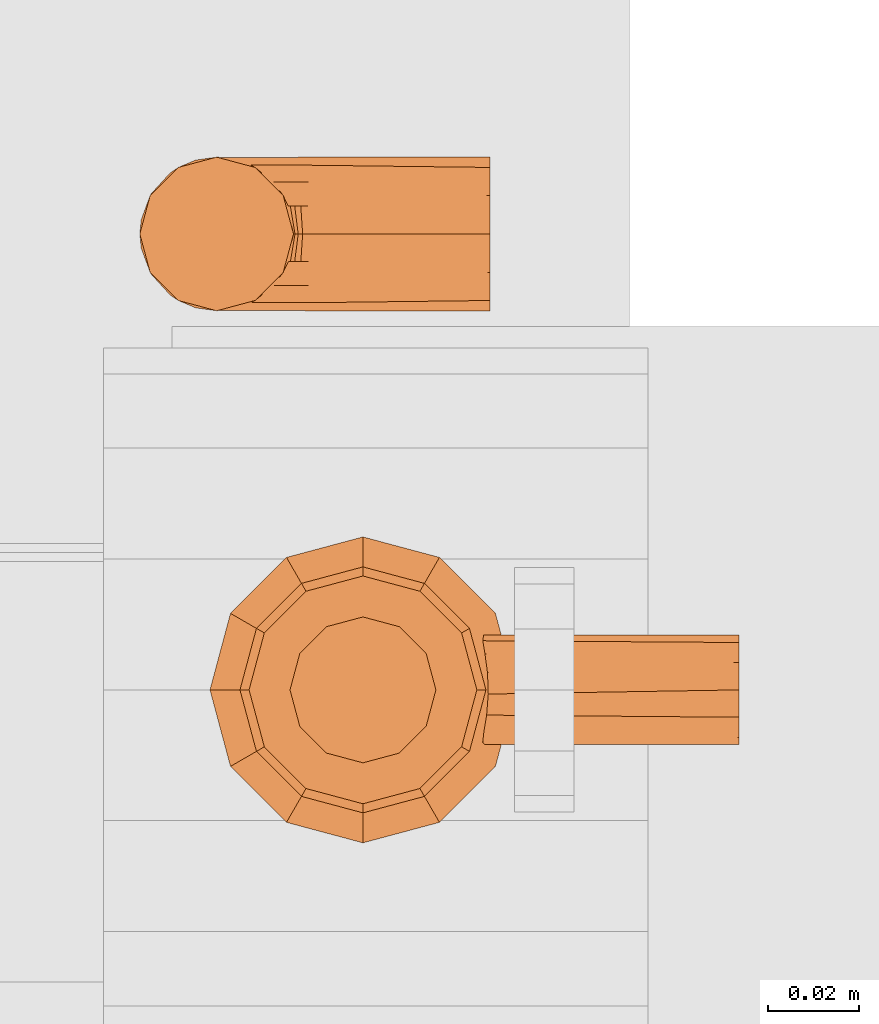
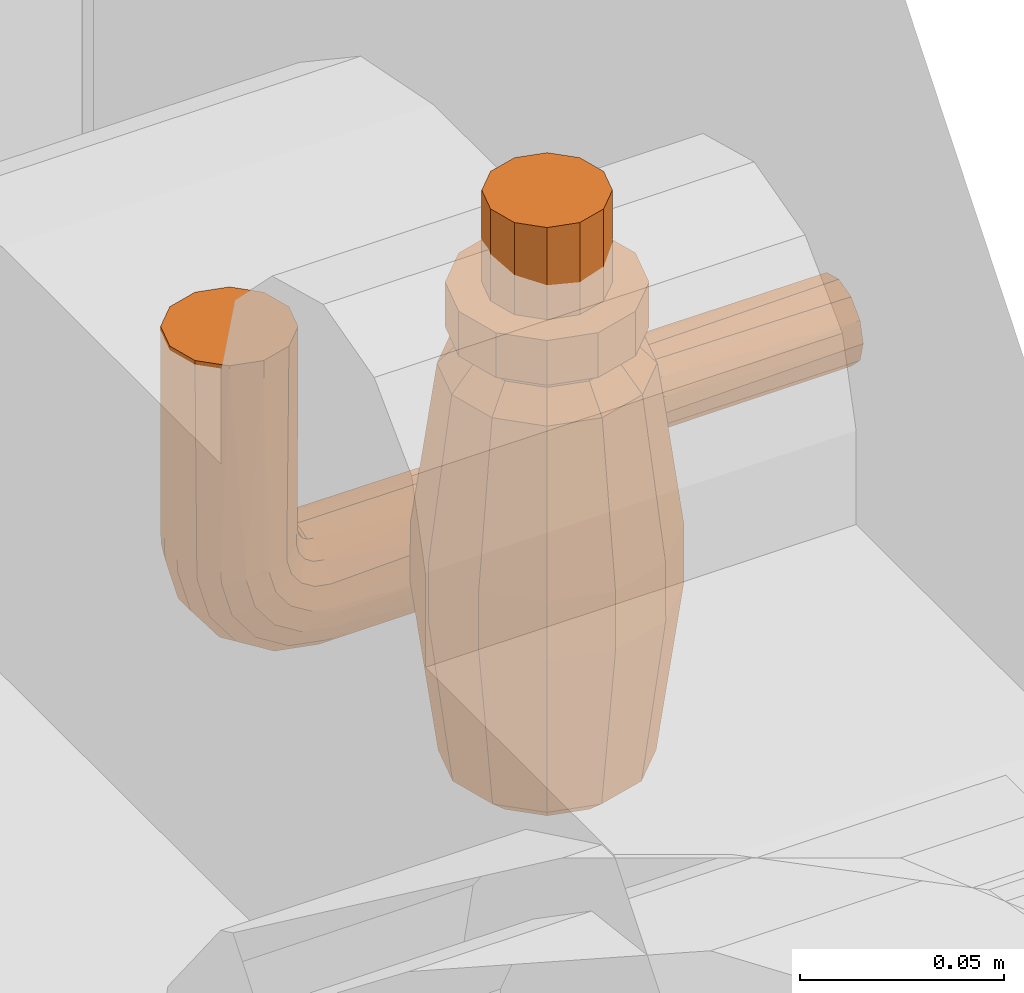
# One storey, part 373 of 374: 2 proxies.
"""IFC2X3 building model written with IfcOpenShell, lengths in metres."""

import ifcopenshell
import ifcopenshell.guid

model = None  # the IFC model being written
_history = None  # IfcOwnerHistory: only IFC2X3 demands one
_inside = {}  # id of a spatial element -> (the spatial element, [elements in it])
_under = {}  # id of a project, library or spatial element -> (it, [spatial elements below it])
_declared = {}  # id of a project -> (the project, [libraries it declares])
_typed = {}  # id of a type object -> (the type object, [elements of that type])
_made_of = {}  # id of a material, layer set ... -> (it, [elements and type objects made of it])


def new_model(schema):
    """Start an empty IFC model of exactly this schema.

    Asked for "IFC4X3", IfcOpenShell would pick the latest addendum, in which some entities
    have other attributes; the version numbers below select the first issue.
    IFC2X3 requires an IfcOwnerHistory on every rooted entity: one is made here for all.
    """
    global model, _history
    if schema == "IFC4X3":
        model = ifcopenshell.file(schema_version=(4, 3, 0, 0))
    else:
        model = ifcopenshell.file(schema=schema)
    _inside.clear()
    _under.clear()
    _declared.clear()
    _typed.clear()
    _made_of.clear()
    _history = None
    if model.schema == "IFC2X3":
        org = make("IfcOrganization", Name="unknown")
        user = make(
            "IfcPersonAndOrganization",
            ThePerson=make("IfcPerson", FamilyName="unknown"),
            TheOrganization=org,
        )
        app = make(
            "IfcApplication",
            ApplicationDeveloper=org,
            Version="unknown",
            ApplicationFullName="unknown",
            ApplicationIdentifier="unknown",
        )
        _history = make(
            "IfcOwnerHistory",
            OwningUser=user,
            OwningApplication=app,
            ChangeAction="ADDED",
            CreationDate=0,
        )
    return model


def make(cls, **values):
    """One entity of the class cls with the attributes given. An attribute that is None is left unset."""
    return model.create_entity(
        cls, **{name: value for name, value in values.items() if value is not None}
    )


def rooted(cls, **values):
    """An entity with a GlobalId (a new one), such as an element, a storey or a relation."""
    return make(cls, GlobalId=ifcopenshell.guid.new(), OwnerHistory=_history, **values)


def si_unit(unit_type, name, prefix=None):
    """IfcSIUnit, for example si_unit("LENGTHUNIT", "METRE", prefix="MILLI")."""
    return make("IfcSIUnit", UnitType=unit_type, Prefix=prefix, Name=name)


def assignment(units):
    """IfcUnitAssignment: the units of a project."""
    return None if units is None else make("IfcUnitAssignment", Units=units)


def point(xyz):
    """IfcCartesianPoint."""
    return None if xyz is None else make("IfcCartesianPoint", Coordinates=xyz)


def direction(xyz):
    """IfcDirection."""
    return None if xyz is None else make("IfcDirection", DirectionRatios=xyz)


def frame(location, z_axis=None, x_axis=None):
    """IfcAxis2Placement3D, a coordinate frame: its origin and axes. An axis left out is left unset."""
    return make(
        "IfcAxis2Placement3D",
        Location=point(location),
        Axis=direction(z_axis),
        RefDirection=direction(x_axis),
    )


def origin():
    """The frame at (0, 0, 0) with its axes left unset."""
    return frame((0.0, 0.0, 0.0))


def place(relative_to, where):
    """IfcLocalPlacement: puts the frame where relative to a parent placement (None: the world)."""
    return make(
        "IfcLocalPlacement", PlacementRelTo=relative_to, RelativePlacement=where
    )


def context(
    kind, dimensions, precision=None, world=None, true_north=None, identifier=None
):
    """IfcGeometricRepresentationContext, for example the 3D "Model" context."""
    return make(
        "IfcGeometricRepresentationContext",
        ContextIdentifier=identifier,
        ContextType=kind,
        CoordinateSpaceDimension=dimensions,
        Precision=precision,
        WorldCoordinateSystem=world,
        TrueNorth=true_north,
    )


def subcontext(parent, identifier, kind, view, scale=None):
    """IfcGeometricRepresentationSubContext, for example "Body" below "Model"."""
    return make(
        "IfcGeometricRepresentationSubContext",
        ContextIdentifier=identifier,
        ContextType=kind,
        ParentContext=parent,
        TargetScale=scale,
        TargetView=view,
    )


def project(units=None, contexts=None):
    """IfcProject with its units and contexts."""
    return rooted(
        "IfcProject",
        Name="project",
        RepresentationContexts=contexts,
        UnitsInContext=assignment(units),
    )


def spatial(cls, under=None, at=None, **own):
    """A site, building, storey or space (cls), placed at a placement, below another one or the project."""
    s = rooted(cls, ObjectPlacement=at, **own)
    if under is not None:
        _under.setdefault(under.id(), (under, []))[1].append(s)
    return s


def faces_of(points, faces, orient=None, outer=None):
    """IfcFace entities. A face is a list of loops; a loop is a list of indices into points, from 0.

    orient and outer hold one flag for each loop. By default every Orientation is true, the
    first loop of a face is its IfcFaceOuterBound and the others are IfcFaceBound.
    """
    made = []
    for i, loops in enumerate(faces):
        bounds = []
        for j, loop in enumerate(loops):
            is_outer = j == 0 if outer is None else outer[i][j]
            bounds.append(
                make(
                    "IfcFaceOuterBound" if is_outer else "IfcFaceBound",
                    Bound=make("IfcPolyLoop", Polygon=[points[k] for k in loop]),
                    Orientation=True if orient is None else orient[i][j],
                )
            )
        made.append(make("IfcFace", Bounds=bounds))
    return made


def open_shell(faces, orient=None, outer=None):
    """The faces of one IfcOpenShell. surface_model builds it on its shared points."""
    return ("IfcOpenShell", faces, orient, outer)


def surface_model(cls, points, shells):
    """IfcFaceBasedSurfaceModel or IfcShellBasedSurfaceModel (cls): surfaces that need not close."""
    shared = [point(p) for p in points]
    made = [make(c, CfsFaces=faces_of(shared, fs, o, b)) for c, fs, o, b in shells]
    if cls == "IfcFaceBasedSurfaceModel":
        return make(cls, FbsmFaces=made)
    return make(cls, SbsmBoundary=made)


def shape(context_of_items, identifier, shape_type, items):
    """IfcShapeRepresentation: the items that make up one representation, for example the "Body"."""
    return make(
        "IfcShapeRepresentation",
        ContextOfItems=context_of_items,
        RepresentationIdentifier=identifier,
        RepresentationType=shape_type,
        Items=items,
    )


def source(mapping_origin, context_of_items, identifier, shape_type, items):
    """IfcRepresentationMap: a shape defined once, which mapped items show again and again."""
    return make(
        "IfcRepresentationMap",
        MappingOrigin=mapping_origin,
        MappedRepresentation=shape(context_of_items, identifier, shape_type, items),
    )


def transform(
    local_origin,
    x_axis=None,
    y_axis=None,
    z_axis=None,
    scale=None,
    scale2=None,
    scale3=None,
    uniform=True,
):
    """IfcCartesianTransformationOperator3D, or its non-uniform kind. x_axis, y_axis, z_axis: its Axis1, 2, 3."""
    if uniform:
        return make(
            "IfcCartesianTransformationOperator3D",
            Axis1=direction(x_axis),
            Axis2=direction(y_axis),
            LocalOrigin=point(local_origin),
            Scale=scale,
            Axis3=direction(z_axis),
        )
    return make(
        "IfcCartesianTransformationOperator3DnonUniform",
        Axis1=direction(x_axis),
        Axis2=direction(y_axis),
        LocalOrigin=point(local_origin),
        Scale=scale,
        Axis3=direction(z_axis),
        Scale2=scale2,
        Scale3=scale3,
    )


def mapped(mapping_source, mapping_target):
    """IfcMappedItem: shows the shape of a source again, moved by a transform."""
    return make(
        "IfcMappedItem", MappingSource=mapping_source, MappingTarget=mapping_target
    )


def made_of(thing, what):
    """Note that an element or type object is made of a material, layer set ...; save() writes the relation."""
    if what is not None:
        _made_of.setdefault(what.id(), (what, []))[1].append(thing)
    return thing


def element(
    cls,
    number,
    at=None,
    inside=None,
    cuts=None,
    type_object=None,
    material=None,
    context=None,
    identifier="Body",
    shape_type=None,
    held_by="IfcProductDefinitionShape",
    body=None,
    shapes=None,
    **own,
):
    """One element of the class cls, such as IfcWall. Its Tag is "e" and its number.

    at: its placement. inside: the storey or other place that contains it. cuts: it is an
    opening in that element (IfcRelVoidsElement). A single representation is given by context,
    identifier, shape_type and body (its items); several are given by shapes. held_by: the class
    of the entity that holds the representations. save() writes the other relations.
    """
    e = rooted(cls, Tag="e%d" % number, ObjectPlacement=at, **own)
    if body is not None:
        shapes = [shape(context, identifier, shape_type, body)]
    if shapes is not None:
        e.Representation = make(held_by, Representations=shapes)
    if inside is not None:
        _inside.setdefault(inside.id(), (inside, []))[1].append(e)
    if cuts is not None:
        rooted(
            "IfcRelVoidsElement", RelatingBuildingElement=cuts, RelatedOpeningElement=e
        )
    if type_object is not None:
        _typed.setdefault(type_object.id(), (type_object, []))[1].append(e)
    return made_of(e, material)


def aggregate(whole, parts):
    """IfcRelAggregates: a whole, such as a stair, and the parts it consists of."""
    return rooted("IfcRelAggregates", RelatingObject=whole, RelatedObjects=parts)


def save(model, path):
    """Write the relations noted so far, then the file.

    IfcRelAggregates (storeys below a building ...), IfcRelContainedInSpatialStructure (elements
    in a storey), IfcRelDefinesByType, IfcRelAssociatesMaterial and IfcRelDeclares: one each for
    every whole, place, type object, material and project.
    """
    for whole, parts in _under.values():
        aggregate(whole, parts)
    for where, things in _inside.values():
        rooted(
            "IfcRelContainedInSpatialStructure",
            RelatedElements=things,
            RelatingStructure=where,
        )
    for kind, things in _typed.values():
        rooted("IfcRelDefinesByType", RelatedObjects=things, RelatingType=kind)
    for what, things in _made_of.values():
        rooted("IfcRelAssociatesMaterial", RelatedObjects=things, RelatingMaterial=what)
    for by, libraries in _declared.values():
        rooted("IfcRelDeclares", RelatingContext=by, RelatedDefinitions=libraries)
    model.write(path)


model = new_model("IFC2X3")

# Units and contexts
model_context = context("Model", 3, precision=1e-05, world=origin(), true_north=direction((-0.4480736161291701, 0.8939966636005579)))
body_context = subcontext(model_context, "Body", "Model", "MODEL_VIEW")
ifc_project = project(units=[si_unit("LENGTHUNIT", "METRE"), si_unit("AREAUNIT", "SQUARE_METRE"), si_unit("VOLUMEUNIT", "CUBIC_METRE"), si_unit("PLANEANGLEUNIT", "RADIAN"), si_unit("THERMODYNAMICTEMPERATUREUNIT", "KELVIN"), si_unit("MASSUNIT", "GRAM", prefix="KILO"), si_unit("TIMEUNIT", "SECOND")], contexts=[model_context])

# Site, building, storey
site_placement = place(None, origin())
site = spatial("IfcSite", under=ifc_project, at=site_placement, Name="Site 1", CompositionType="ELEMENT")
building_placement = place(site_placement, origin())
building = spatial("IfcBuilding", under=site, at=building_placement, Name="Undefined", CompositionType="ELEMENT")
storey_placement = place(building_placement, origin())
storey = spatial("IfcBuildingStorey", under=building, at=storey_placement, Name="Rez de chauss\x8ee", CompositionType="ELEMENT", Elevation=0.0)

# Proxies
shared_shape_1 = source(origin(), body_context, "Body", "SurfaceModel", [
    surface_model("IfcFaceBasedSurfaceModel", [(0.01627517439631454, 0.004360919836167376, 0.0), (0.0, 0.0, 0.0), (0.023828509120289, 4.4408921e-16, 0.0), (-0.004360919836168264, -0.007553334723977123, 0.0), (0.028189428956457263, -0.007553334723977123, 0.0), (-0.004360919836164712, -0.01627517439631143, 0.0), (0.028189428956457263, -0.016275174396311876, 0.0), (0.0, -0.023828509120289, 0.0), (0.023828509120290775, -0.023828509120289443, 0.0), (0.007553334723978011, -0.02818942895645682, 0.0), (0.016275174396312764, -0.02818942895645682, 0.0), (0.007553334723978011, 0.004360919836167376, 0.0), (-0.00493304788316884, -0.011654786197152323, -0.039897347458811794), (-0.004360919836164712, -0.01627517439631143, -0.039897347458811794), (-0.0038891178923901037, -0.0177582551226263, -0.039897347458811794), (-0.0007108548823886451, -0.02307245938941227, -0.039897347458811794), (0.004172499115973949, -0.02687968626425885, -0.039897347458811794), (0.010101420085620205, -0.028665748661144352, -0.039897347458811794), (0.016275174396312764, -0.02818942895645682, -0.039897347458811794), (0.021859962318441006, -0.025515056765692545, -0.039897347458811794), (0.0261015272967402, -0.021003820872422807, -0.039897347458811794), (0.028427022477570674, -0.015264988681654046, -0.039897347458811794), (0.02852237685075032, -0.009073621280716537, -0.039897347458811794), (0.028189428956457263, -0.007553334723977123, -0.039897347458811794), (0.026374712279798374, -0.00326589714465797, -0.039897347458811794), (0.022274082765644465, 0.001373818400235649, -0.039897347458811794), (0.01677430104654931, 0.004218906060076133, -0.039897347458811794), (0.010618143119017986, 0.0048851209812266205, -0.039897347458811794), (0.004637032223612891, 0.0032824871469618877, -0.039897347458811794), (-0.0003612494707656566, -0.00037255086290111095, -0.039897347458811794), (-0.0037016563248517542, -0.005586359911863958, -0.039897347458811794), (0.041370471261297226, -0.08929600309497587, -0.0453054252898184), (0.025095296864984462, -0.09365692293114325, -0.0453054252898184), (0.04732759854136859, -0.08769979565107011, -0.05147269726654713), (0.019138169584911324, -0.09525313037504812, -0.05147269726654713), (0.04950805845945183, -0.08711554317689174, -0.05989734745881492), (0.016957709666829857, -0.0958373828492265, -0.05989734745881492), (0.04732759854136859, -0.08769979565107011, -0.0683219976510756), (0.019138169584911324, -0.09525313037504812, -0.0683219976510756), (0.041370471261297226, -0.08929600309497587, -0.07448926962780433), (0.025095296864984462, -0.09365692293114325, -0.07448926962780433), (0.033232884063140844, -0.09147646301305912, -0.07674664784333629), (0.033232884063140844, -0.09147646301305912, -0.043048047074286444), (0.0008848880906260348, -0.035575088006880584, -0.05834269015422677), (0.000815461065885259, -0.03559369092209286, -0.05989734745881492), (0.0014367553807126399, -0.03542721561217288, -0.06450837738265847), (0.004102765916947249, -0.03471286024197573, -0.0700513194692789), (0.008522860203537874, -0.03352849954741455, -0.07422291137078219), (0.014100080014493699, -0.03203408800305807, -0.07645975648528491), (0.020081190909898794, -0.030431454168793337, -0.07645975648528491), (0.025658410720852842, -0.028937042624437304, -0.07422291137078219), (0.030078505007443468, -0.027752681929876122, -0.0700513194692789), (0.03274451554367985, -0.027038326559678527, -0.06450837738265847), (0.033365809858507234, -0.02687185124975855, -0.05989734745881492), (0.03329638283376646, -0.026890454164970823, -0.05834269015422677), (0.03165957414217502, -0.02732903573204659, -0.052386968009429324), (0.028055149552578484, -0.028294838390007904, -0.047445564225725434), (0.02296990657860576, -0.029657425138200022, -0.044185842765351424), (0.017090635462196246, -0.031232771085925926, -0.043048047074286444), (0.011211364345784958, -0.03280811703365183, -0.044185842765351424), (0.006126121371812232, -0.03417070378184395, -0.047445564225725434), (0.002521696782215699, -0.035136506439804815, -0.052386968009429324), (0.0004443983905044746, -0.03393115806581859, -0.05826400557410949), (0.0008490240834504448, -0.03323377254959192, -0.06440339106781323), (0.0033826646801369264, -0.032025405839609, -0.06992268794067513), (0.007703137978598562, -0.03046925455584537, -0.07407648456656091), (0.013226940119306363, -0.028775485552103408, -0.07630378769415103), (0.019208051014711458, -0.027172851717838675, -0.07630378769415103), (0.02483868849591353, -0.025877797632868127, -0.07407648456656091), (0.029358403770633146, -0.025065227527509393, -0.06992268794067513), (0.03215678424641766, -0.02484488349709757, -0.06440339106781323), (0.0022234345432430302, -0.03402337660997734, -0.05233368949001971), (-0.0012430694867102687, -0.027633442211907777, -0.056408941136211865), (0.0010808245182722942, -0.02975909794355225, -0.05107759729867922), (-0.0026431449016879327, -0.02240828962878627, -0.052323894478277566), (0.0001328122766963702, -0.02622106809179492, -0.048311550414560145), (-0.003566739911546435, -0.01896138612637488, -0.04656057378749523), (-0.0004925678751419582, -0.02388711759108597, -0.04440911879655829), (0.005945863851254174, -0.03349797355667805, -0.04741336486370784), (0.005255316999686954, -0.03092081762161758, -0.04665423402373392), (0.004682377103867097, -0.028782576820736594, -0.044982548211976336), (0.004304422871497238, -0.027372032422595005, -0.04262407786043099), (0.011108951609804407, -0.032425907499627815, -0.04416754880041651), (0.010716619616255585, -0.030961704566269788, -0.04373625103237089), (0.010391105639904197, -0.02974686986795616, -0.04278648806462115), (0.010176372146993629, -0.028945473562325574, -0.04144653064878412), (0.017015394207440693, -0.0309519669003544, -0.04303460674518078), (0.01672715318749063, -0.029876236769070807, -0.04271773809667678), (0.01648800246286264, -0.028983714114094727, -0.042019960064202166), (0.01633024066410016, -0.028394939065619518, -0.04103551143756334), (0.02286749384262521, -0.029275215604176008, -0.04416754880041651), (0.022475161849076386, -0.02781101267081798, -0.04373625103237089), (0.022149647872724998, -0.026596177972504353, -0.04278648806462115), (0.02193491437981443, -0.025794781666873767, -0.04144653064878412), (0.027874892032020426, -0.027622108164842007, -0.04741336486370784), (0.027184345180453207, -0.025044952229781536, -0.04665423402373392), (0.02661140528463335, -0.02290671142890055, -0.044982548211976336), (0.02623345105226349, -0.02149616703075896, -0.04262407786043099), (0.03136131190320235, -0.026215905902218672, -0.05233368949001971), (0.030218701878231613, -0.02195162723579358, -0.05107759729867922), (0.02927068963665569, -0.018413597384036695, -0.048311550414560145), (0.02864530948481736, -0.016079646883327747, -0.04440911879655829), (0.0328558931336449, -0.02524652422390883, -0.05826400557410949), (0.031168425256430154, -0.018948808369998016, -0.056408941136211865), (0.02976834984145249, -0.01372365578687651, -0.052323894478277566), (0.02884475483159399, -0.010276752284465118, -0.04656057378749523), (0.029905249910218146, -0.016442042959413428, -0.06192823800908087), (0.02803717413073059, -0.009470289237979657, -0.05647769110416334), (0.026804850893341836, -0.004871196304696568, -0.04878787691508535), (-0.004502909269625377, -0.01326008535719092, -0.04878787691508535), (-0.0031746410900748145, -0.007553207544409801, -0.05079021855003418), (-0.003270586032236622, -0.01785917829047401, -0.05647769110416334), (-0.001664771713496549, -0.013188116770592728, -0.060211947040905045), (-0.0014025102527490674, -0.02483093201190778, -0.06192823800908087), (0.000624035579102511, -0.021730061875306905, -0.06689007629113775), (0.0002386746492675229, -0.00261149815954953, -0.05229717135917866), (0.0019574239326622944, -0.00902595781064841, -0.06302233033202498), (0.004562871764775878, -0.018749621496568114, -0.07062433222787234), (0.0052760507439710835, 0.0008976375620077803, -0.05310521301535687), (0.0071068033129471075, -0.005934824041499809, -0.06452928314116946), (0.009882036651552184, -0.016292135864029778, -0.07262667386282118), (0.011257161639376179, 0.002500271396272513, -0.05310521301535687), (0.013087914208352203, -0.004332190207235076, -0.06452928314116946), (0.01586314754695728, -0.014689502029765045, -0.07262667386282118), (0.01737422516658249, 0.001979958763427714, -0.05229717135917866), (0.019092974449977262, -0.004434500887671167, -0.06302233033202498), (0.021698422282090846, -0.01415816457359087, -0.07062433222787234), (0.022801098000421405, -0.0005930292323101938, -0.05079021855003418), (0.02431096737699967, -0.006227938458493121, -0.060211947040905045), (0.02659977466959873, -0.014769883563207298, -0.06689007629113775)], [open_shell([[[0, 1, 2]], [[2, 1, 3]], [[2, 3, 4]], [[4, 3, 5]], [[4, 5, 6]], [[6, 5, 7]], [[6, 7, 8]], [[8, 7, 9]], [[8, 9, 10]], [[0, 11, 1]], [[12, 13, 5]], [[5, 13, 14]], [[5, 14, 7]], [[7, 14, 15]], [[7, 15, 16]], [[7, 16, 9]], [[9, 16, 17]], [[9, 17, 10]], [[10, 17, 18]], [[10, 18, 19]], [[10, 19, 8]], [[8, 19, 20]], [[8, 20, 6]], [[6, 20, 21]], [[6, 21, 22]], [[6, 22, 4]], [[4, 22, 23]], [[4, 23, 24]], [[4, 24, 2]], [[2, 24, 25]], [[2, 25, 0]], [[0, 25, 26]], [[0, 26, 27]], [[0, 27, 11]], [[11, 27, 28]], [[11, 28, 1]], [[1, 28, 29]], [[1, 29, 30]], [[1, 30, 3]], [[3, 30, 12]], [[3, 12, 5]], [[31, 32, 33]], [[33, 32, 34]], [[33, 34, 35]], [[35, 34, 36]], [[35, 36, 37]], [[37, 36, 38]], [[37, 38, 39]], [[39, 38, 40]], [[39, 40, 41]], [[31, 42, 32]], [[43, 44, 36]], [[36, 44, 45]], [[36, 45, 38]], [[38, 45, 46]], [[38, 46, 40]], [[40, 46, 47]], [[40, 47, 48]], [[40, 48, 41]], [[41, 48, 49]], [[41, 49, 39]], [[39, 49, 50]], [[39, 50, 51]], [[39, 51, 37]], [[37, 51, 52]], [[37, 52, 35]], [[35, 52, 53]], [[35, 53, 54]], [[35, 54, 33]], [[33, 54, 55]], [[33, 55, 56]], [[33, 56, 31]], [[31, 56, 57]], [[31, 57, 42]], [[42, 57, 58]], [[42, 58, 59]], [[42, 59, 32]], [[32, 59, 60]], [[32, 60, 34]], [[34, 60, 61]], [[34, 61, 43]], [[36, 34, 43]], [[43, 62, 44]], [[44, 62, 63]], [[44, 63, 45]], [[45, 63, 64]], [[45, 64, 46]], [[46, 64, 65]], [[46, 65, 47]], [[47, 65, 66]], [[47, 66, 48]], [[48, 66, 67]], [[48, 67, 49]], [[49, 67, 68]], [[49, 68, 50]], [[50, 68, 69]], [[50, 69, 51]], [[51, 69, 70]], [[51, 70, 52]], [[52, 70, 53]], [[43, 61, 62]], [[62, 61, 71]], [[62, 71, 72]], [[72, 71, 73]], [[72, 73, 74]], [[74, 73, 75]], [[74, 75, 76]], [[76, 75, 77]], [[76, 77, 14]], [[14, 77, 15]], [[61, 60, 71]], [[71, 60, 78]], [[71, 78, 73]], [[73, 78, 79]], [[73, 79, 75]], [[75, 79, 80]], [[75, 80, 77]], [[77, 80, 81]], [[77, 81, 15]], [[15, 81, 16]], [[60, 59, 78]], [[78, 59, 82]], [[78, 82, 79]], [[79, 82, 83]], [[79, 83, 80]], [[80, 83, 84]], [[80, 84, 81]], [[81, 84, 85]], [[81, 85, 16]], [[16, 85, 17]], [[59, 58, 82]], [[82, 58, 86]], [[82, 86, 83]], [[83, 86, 87]], [[83, 87, 84]], [[84, 87, 88]], [[84, 88, 85]], [[85, 88, 89]], [[85, 89, 17]], [[17, 89, 18]], [[58, 57, 86]], [[86, 57, 90]], [[86, 90, 87]], [[87, 90, 91]], [[87, 91, 88]], [[88, 91, 92]], [[88, 92, 89]], [[89, 92, 93]], [[89, 93, 18]], [[18, 93, 19]], [[57, 56, 90]], [[90, 56, 94]], [[90, 94, 91]], [[91, 94, 95]], [[91, 95, 92]], [[92, 95, 96]], [[92, 96, 93]], [[93, 96, 97]], [[93, 97, 19]], [[19, 97, 20]], [[56, 55, 94]], [[94, 55, 98]], [[94, 98, 95]], [[95, 98, 99]], [[95, 99, 96]], [[96, 99, 100]], [[96, 100, 97]], [[97, 100, 101]], [[97, 101, 20]], [[20, 101, 21]], [[55, 54, 98]], [[98, 54, 102]], [[98, 102, 99]], [[99, 102, 103]], [[99, 103, 100]], [[100, 103, 104]], [[100, 104, 101]], [[101, 104, 105]], [[101, 105, 21]], [[21, 105, 22]], [[54, 53, 102]], [[102, 53, 70]], [[102, 70, 103]], [[103, 70, 106]], [[103, 106, 104]], [[104, 106, 107]], [[104, 107, 105]], [[105, 107, 108]], [[105, 108, 23]], [[23, 108, 24]], [[12, 109, 13]], [[13, 109, 76]], [[13, 76, 14]], [[12, 30, 109]], [[109, 30, 110]], [[109, 110, 111]], [[111, 110, 112]], [[111, 112, 113]], [[113, 112, 114]], [[113, 114, 63]], [[63, 114, 64]], [[30, 29, 110]], [[110, 29, 115]], [[110, 115, 112]], [[112, 115, 116]], [[112, 116, 114]], [[114, 116, 117]], [[114, 117, 64]], [[64, 117, 65]], [[29, 28, 115]], [[115, 28, 118]], [[115, 118, 116]], [[116, 118, 119]], [[116, 119, 117]], [[117, 119, 120]], [[117, 120, 65]], [[65, 120, 66]], [[28, 27, 118]], [[118, 27, 121]], [[118, 121, 119]], [[119, 121, 122]], [[119, 122, 120]], [[120, 122, 123]], [[120, 123, 66]], [[66, 123, 67]], [[27, 26, 121]], [[121, 26, 124]], [[121, 124, 122]], [[122, 124, 125]], [[122, 125, 123]], [[123, 125, 126]], [[123, 126, 67]], [[67, 126, 68]], [[26, 25, 124]], [[124, 25, 127]], [[124, 127, 125]], [[125, 127, 128]], [[125, 128, 126]], [[126, 128, 129]], [[126, 129, 68]], [[68, 129, 69]], [[25, 24, 127]], [[127, 24, 108]], [[127, 108, 128]], [[128, 108, 107]], [[128, 107, 129]], [[129, 107, 106]], [[129, 106, 69]], [[69, 106, 70]], [[23, 22, 105]], [[63, 62, 113]], [[113, 62, 72]], [[113, 72, 111]], [[111, 72, 74]], [[111, 74, 109]], [[109, 74, 76]]])]),
])
proxy_1_placement = place(storey_placement, origin())
element("IfcBuildingElementProxy", 1, at=proxy_1_placement, inside=storey, Name="BuildingElementProxy 18", context=body_context, shape_type="MappedRepresentation", body=[
    mapped(shared_shape_1, transform((54.940406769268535, 13.164639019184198, 0.2204094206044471), x_axis=(0.0, -0.9659258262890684, 0.2588190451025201), y_axis=(0.0, -0.2588190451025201, -0.9659258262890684), z_axis=(1.0, 0.0, 0.0))),
])
shared_shape_2 = source(origin(), body_context, "Body", "SurfaceModel", [
    surface_model("IfcFaceBasedSurfaceModel", [(0.017105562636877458, 0.003022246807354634, -7.105427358e-15), (0.0, 0.0, 0.0), (0.04828508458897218, 0.0, 0.0), (-0.0004868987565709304, -0.013286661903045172, -0.004265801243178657), (0.04768076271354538, -0.01649094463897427, -0.005294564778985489), (-0.0018171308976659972, -0.022647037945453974, -0.01454117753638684), (0.04602972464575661, -0.028108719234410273, -0.018048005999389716), (-0.0036342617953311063, -0.025573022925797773, -0.02807285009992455), (0.043774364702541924, -0.03174035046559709, -0.034843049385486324), (-0.0054513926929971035, -0.021280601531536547, -0.04123501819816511), (0.04151900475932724, -0.02641274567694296, -0.051179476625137), (-0.006781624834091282, -0.010919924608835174, -0.05050088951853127), (0.03986796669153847, -0.013553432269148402, -0.06267995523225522), (-0.007268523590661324, 0.002732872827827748, -0.05338768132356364), (0.03926364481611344, 0.0033919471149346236, -0.06626294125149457), (-0.006781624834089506, 0.016019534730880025, -0.04912188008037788), (0.03986796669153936, 0.019882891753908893, -0.06096837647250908), (-0.005451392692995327, 0.025379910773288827, -0.0388465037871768), (0.041519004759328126, 0.0315006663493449, -0.04821493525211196), (-0.00363426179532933, 0.028305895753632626, -0.025314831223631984), (0.04377436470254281, 0.03513229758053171, -0.03141989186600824), (-0.0018171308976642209, 0.0240134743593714, -0.012152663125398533), (0.046029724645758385, 0.029804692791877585, -0.015083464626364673), (0.013659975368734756, 0.024185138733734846, -0.010790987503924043), (0.018370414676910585, 0.024083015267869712, -0.010274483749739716), (0.027432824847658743, 0.016370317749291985, -0.0037136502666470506), (0.02715700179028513, 0.012101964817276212, -0.001803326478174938), (0.047680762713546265, 0.016945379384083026, -0.003582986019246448), (0.02503519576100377, 0.007957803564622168, -0.0006341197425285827), (0.021580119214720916, 0.004792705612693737, -0.00013627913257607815), (0.025785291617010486, 0.020111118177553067, -0.006163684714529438), (0.0226155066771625, 0.022707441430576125, -0.00853248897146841), (0.005028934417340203, 0.008830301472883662, -0.0009629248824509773), (0.0034571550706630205, 0.01309659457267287, -0.002544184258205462), (-0.0004868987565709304, 0.013652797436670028, -0.0028867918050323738), (0.003689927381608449, 0.0171970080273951, -0.004879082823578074), (0.005692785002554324, 0.020642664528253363, -0.0075613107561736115), (0.009162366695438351, 0.023009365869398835, -0.009773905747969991), (0.008108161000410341, 0.005326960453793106, -0.0002297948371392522), (0.01242090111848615, 0.003184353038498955, -1.2547455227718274e-05), (-0.05268094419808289, 0.00020003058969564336, -0.0039076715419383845), (-0.053758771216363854, 0.014443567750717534, -0.0111159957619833), (-0.05296974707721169, -0.007680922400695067, -0.006437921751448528), (-0.05483659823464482, 0.016989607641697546, -0.018923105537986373), (-0.05375877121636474, -0.01323300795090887, -0.012532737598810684), (-0.05591442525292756, 0.015254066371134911, -0.026949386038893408), (-0.054836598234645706, -0.0149685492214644, -0.02055901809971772), (-0.05670344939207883, 0.009701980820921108, -0.033044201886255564), (-0.055914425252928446, -0.012422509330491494, -0.028366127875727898), (-0.05699225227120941, 0.0018210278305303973, -0.03557445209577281), (-0.05670344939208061, -0.006277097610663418, -0.03386215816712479), (-0.05296974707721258, 0.008298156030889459, -0.005619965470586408), (-0.02945417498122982, 0.009891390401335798, -0.036744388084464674), (-0.028665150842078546, 0.015443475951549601, -0.030649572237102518), (-0.027587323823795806, 0.017179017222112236, -0.022623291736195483), (-0.026509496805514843, 0.014632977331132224, -0.01481618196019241), (-0.02572047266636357, 0.008487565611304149, -0.009320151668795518), (-0.02543166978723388, 0.0003894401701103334, -0.0076078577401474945), (-0.02572047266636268, -0.007491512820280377, -0.010138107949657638), (-0.02650949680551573, -0.01304359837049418, -0.016232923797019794), (-0.027587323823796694, -0.01477913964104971, -0.02425920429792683), (-0.028665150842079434, -0.012233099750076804, -0.03206631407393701), (-0.029454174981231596, -0.006087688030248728, -0.0375623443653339), (-0.029742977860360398, 0.0020104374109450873, -0.03927463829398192), (0.11094633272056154, 0.02883316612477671, -0.0408875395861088), (0.11469317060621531, 0.020666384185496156, -0.052297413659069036), (0.10914735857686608, 0.02593641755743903, -0.054284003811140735), (0.11367014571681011, 0.01346771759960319, -0.060199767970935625), (0.10783041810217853, 0.016669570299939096, -0.0644567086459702), (0.11329569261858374, 0.003249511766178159, -0.06348041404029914), (0.10734838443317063, 0.0035156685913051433, -0.06867988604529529), (0.11367014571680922, -0.007250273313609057, -0.061260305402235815), (0.10783041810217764, -0.0100007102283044, -0.06582193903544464), (0.11469317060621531, -0.015218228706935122, -0.0541343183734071), (0.10914735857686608, -0.02025786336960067, -0.056648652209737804), (0.11609064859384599, -0.018519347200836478, -0.04401185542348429), (0.11094633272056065, -0.02450739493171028, -0.043618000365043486), (0.11748812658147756, -0.016269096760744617, -0.03360522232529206), (0.1127453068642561, -0.0216106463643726, -0.030221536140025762), (0.11851115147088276, -0.009070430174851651, -0.025702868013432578), (0.11406224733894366, -0.012343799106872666, -0.02004883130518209), (0.11888560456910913, 0.0011477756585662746, -0.02242222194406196), (0.11454428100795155, 0.0008101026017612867, -0.0158256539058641), (0.11851115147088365, 0.011647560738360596, -0.024642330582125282), (0.11406224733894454, 0.014326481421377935, -0.01868360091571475), (0.11748812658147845, 0.01961551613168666, -0.031768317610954), (0.11274530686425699, 0.0245836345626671, -0.027856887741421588), (0.11609064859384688, 0.02291663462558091, -0.04189078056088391), (0.06106515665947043, 0.035324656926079, -0.03376411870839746), (0.05880492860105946, 0.031685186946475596, -0.05059541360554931), (0.05715032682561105, 0.020042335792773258, -0.06337638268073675), (0.05654470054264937, 0.003515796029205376, -0.06868237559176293), (0.057150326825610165, -0.013466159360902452, -0.06509165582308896), (0.05880492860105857, -0.026353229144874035, -0.05356635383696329), (0.061065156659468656, -0.03169233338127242, -0.03719466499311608), (0.06332538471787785, -0.028052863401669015, -0.020363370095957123), (0.06497998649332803, -0.016410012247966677, -0.007582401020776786), (0.06558561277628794, 0.00011652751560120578, -0.0022764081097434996), (0.06497998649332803, 0.017098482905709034, -0.005867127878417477), (0.06332538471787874, 0.02998555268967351, -0.01739242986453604), (-0.010742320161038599, 0.02195163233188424, -0.024672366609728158), (-0.012134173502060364, 0.019710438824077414, -0.03503711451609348), (-0.013153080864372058, 0.012540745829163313, -0.042907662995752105), (-0.01352602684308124, 0.0023636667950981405, -0.04617510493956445), (-0.013153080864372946, -0.008093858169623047, -0.04396393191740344), (-0.012134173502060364, -0.0160297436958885, -0.03686662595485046), (-0.010742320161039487, -0.01931757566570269, -0.026784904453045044), (-0.00935046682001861, -0.017076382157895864, -0.016420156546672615), (-0.008331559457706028, -0.009906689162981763, -0.008549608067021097), (-0.007958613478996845, 0.0002703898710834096, -0.005282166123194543), (-0.008331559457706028, 0.010727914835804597, -0.007493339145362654), (-0.009350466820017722, 0.01866380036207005, -0.014590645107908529), (-0.013714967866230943, 0.022004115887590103, -0.024264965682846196), (-0.01511175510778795, 0.019754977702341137, -0.03466645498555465), (-0.016134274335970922, 0.01255986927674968, -0.042564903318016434), (-0.01650854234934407, 0.002346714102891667, -0.04584392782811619), (-0.01613427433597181, -0.00814788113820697, -0.043624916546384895), (-0.01511175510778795, -0.01611189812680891, -0.0365024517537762), (-0.01371496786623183, -0.019411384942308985, -0.026384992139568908), (-0.012318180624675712, -0.017162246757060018, -0.015983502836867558), (-0.011295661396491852, -0.009967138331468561, -0.00808505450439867), (-0.010921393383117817, 0.00024601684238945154, -0.004806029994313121), (-0.011295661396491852, 0.010740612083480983, -0.007025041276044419), (-0.012318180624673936, 0.01870462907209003, -0.014147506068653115), (-0.01435700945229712, 0.026240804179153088, -0.023960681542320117), (-0.01603987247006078, 0.023531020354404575, -0.03649249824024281), (-0.017271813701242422, 0.01486228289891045, -0.04600862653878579), (-0.017722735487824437, 0.002557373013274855, -0.04995922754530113), (-0.017271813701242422, -0.01008661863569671, -0.047285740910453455), (-0.01603987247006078, -0.019681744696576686, -0.038704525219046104), (-0.014357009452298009, -0.02365699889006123, -0.02651491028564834), (-0.01267414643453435, -0.020947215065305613, -0.013983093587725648), (-0.011442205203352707, -0.012278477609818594, -0.004466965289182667), (-0.010991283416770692, 2.64322758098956e-05, -0.0005163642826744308), (-0.011442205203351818, 0.012670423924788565, -0.0031898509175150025), (-0.01267414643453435, 0.022265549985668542, -0.011771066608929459), (-0.02760855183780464, 0.02614869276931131, -0.022161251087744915), (-0.0292914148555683, 0.023438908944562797, -0.03469306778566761), (-0.030523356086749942, 0.014770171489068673, -0.04420919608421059), (-0.030974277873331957, 0.0024652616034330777, -0.04815979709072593), (-0.030523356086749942, -0.010178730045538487, -0.045486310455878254), (-0.0292914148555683, -0.019773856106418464, -0.0369050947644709), (-0.02760855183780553, -0.02374911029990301, -0.02471547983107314), (-0.02592568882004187, -0.02103932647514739, -0.012183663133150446), (-0.024693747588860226, -0.012370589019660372, -0.0026675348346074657), (-0.02424282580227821, -6.567913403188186e-05, 0.0012830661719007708), (-0.02469374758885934, 0.012578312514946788, -0.001390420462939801), (-0.02592568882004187, 0.022173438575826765, -0.009971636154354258), (0.020865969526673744, 0.049739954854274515, 0.03858559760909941), (0.015027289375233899, 0.048266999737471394, 0.04011765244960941), (0.010969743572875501, 0.044325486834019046, 0.042688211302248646), (0.009780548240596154, 0.038971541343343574, 0.04560849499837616), (0.011778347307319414, 0.033639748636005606, 0.04809601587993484), (0.0164278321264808, 0.029758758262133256, 0.04948424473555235), (0.02248317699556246, 0.028368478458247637, 0.049401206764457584), (0.028321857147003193, 0.029841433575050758, 0.04786915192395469), (0.0323794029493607, 0.033782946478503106, 0.04529859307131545), (0.03356859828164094, 0.03913689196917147, 0.04237830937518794), (0.03157079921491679, 0.044468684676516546, 0.03989078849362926), (0.02692131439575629, 0.048349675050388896, 0.038502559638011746)], [open_shell([[[0, 1, 2]], [[2, 1, 3]], [[2, 3, 4]], [[4, 3, 5]], [[4, 5, 6]], [[6, 5, 7]], [[6, 7, 8]], [[8, 7, 9]], [[8, 9, 10]], [[10, 9, 11]], [[10, 11, 12]], [[12, 11, 13]], [[12, 13, 14]], [[14, 13, 15]], [[14, 15, 16]], [[16, 15, 17]], [[16, 17, 18]], [[18, 17, 19]], [[18, 19, 20]], [[20, 19, 21]], [[20, 21, 22]], [[22, 21, 23]], [[22, 23, 24]], [[25, 26, 27]], [[27, 26, 28]], [[27, 28, 2]], [[2, 28, 29]], [[2, 29, 0]], [[25, 27, 30]], [[30, 27, 22]], [[30, 22, 31]], [[31, 22, 24]], [[32, 33, 34]], [[34, 33, 35]], [[34, 35, 21]], [[21, 35, 36]], [[21, 36, 37]], [[34, 1, 32]], [[32, 1, 38]], [[0, 39, 1]], [[1, 39, 38]], [[37, 23, 21]], [[40, 41, 42]], [[42, 41, 43]], [[42, 43, 44]], [[44, 43, 45]], [[44, 45, 46]], [[46, 45, 47]], [[46, 47, 48]], [[48, 47, 49]], [[48, 49, 50]], [[40, 51, 41]], [[52, 45, 53]], [[53, 45, 43]], [[53, 43, 54]], [[54, 43, 41]], [[54, 41, 55]], [[55, 41, 51]], [[55, 51, 56]], [[56, 51, 40]], [[56, 40, 57]], [[57, 40, 42]], [[57, 42, 58]], [[58, 42, 44]], [[58, 44, 59]], [[59, 44, 46]], [[59, 46, 60]], [[60, 46, 48]], [[60, 48, 61]], [[61, 48, 50]], [[61, 50, 62]], [[62, 50, 49]], [[62, 49, 63]], [[63, 49, 47]], [[63, 47, 52]], [[52, 47, 45]], [[64, 65, 66]], [[66, 65, 67]], [[66, 67, 68]], [[68, 67, 69]], [[68, 69, 70]], [[70, 69, 71]], [[70, 71, 72]], [[72, 71, 73]], [[72, 73, 74]], [[74, 73, 75]], [[74, 75, 76]], [[76, 75, 77]], [[76, 77, 78]], [[78, 77, 79]], [[78, 79, 80]], [[80, 79, 81]], [[80, 81, 82]], [[82, 81, 83]], [[82, 83, 84]], [[84, 83, 85]], [[84, 85, 86]], [[86, 85, 87]], [[86, 87, 64]], [[64, 87, 65]], [[88, 66, 89]], [[89, 66, 68]], [[89, 68, 90]], [[90, 68, 70]], [[90, 70, 91]], [[91, 70, 72]], [[91, 72, 92]], [[92, 72, 74]], [[92, 74, 93]], [[93, 74, 76]], [[93, 76, 94]], [[94, 76, 78]], [[94, 78, 95]], [[95, 78, 80]], [[95, 80, 96]], [[96, 80, 82]], [[96, 82, 97]], [[97, 82, 84]], [[97, 84, 98]], [[98, 84, 86]], [[98, 86, 99]], [[99, 86, 64]], [[99, 64, 88]], [[88, 64, 66]], [[20, 89, 18]], [[18, 89, 90]], [[18, 90, 16]], [[16, 90, 91]], [[16, 91, 14]], [[14, 91, 92]], [[14, 92, 12]], [[12, 92, 93]], [[12, 93, 10]], [[10, 93, 94]], [[10, 94, 8]], [[8, 94, 95]], [[8, 95, 6]], [[6, 95, 96]], [[6, 96, 4]], [[4, 96, 97]], [[4, 97, 2]], [[2, 97, 98]], [[2, 98, 27]], [[27, 98, 99]], [[27, 99, 22]], [[22, 99, 88]], [[22, 88, 20]], [[20, 88, 89]], [[100, 17, 101]], [[101, 17, 15]], [[101, 15, 102]], [[102, 15, 13]], [[102, 13, 103]], [[103, 13, 11]], [[103, 11, 104]], [[104, 11, 9]], [[104, 9, 105]], [[105, 9, 7]], [[105, 7, 106]], [[106, 7, 5]], [[106, 5, 107]], [[107, 5, 3]], [[107, 3, 108]], [[108, 3, 1]], [[108, 1, 109]], [[109, 1, 34]], [[109, 34, 110]], [[110, 34, 21]], [[110, 21, 111]], [[111, 21, 19]], [[111, 19, 100]], [[100, 19, 17]], [[112, 101, 113]], [[113, 101, 102]], [[113, 102, 114]], [[114, 102, 103]], [[114, 103, 115]], [[115, 103, 104]], [[115, 104, 116]], [[116, 104, 105]], [[116, 105, 117]], [[117, 105, 106]], [[117, 106, 118]], [[118, 106, 107]], [[118, 107, 119]], [[119, 107, 108]], [[119, 108, 120]], [[120, 108, 109]], [[120, 109, 121]], [[121, 109, 110]], [[121, 110, 122]], [[122, 110, 111]], [[122, 111, 123]], [[123, 111, 100]], [[123, 100, 112]], [[112, 100, 101]], [[124, 113, 125]], [[125, 113, 114]], [[125, 114, 126]], [[126, 114, 115]], [[126, 115, 127]], [[127, 115, 116]], [[127, 116, 128]], [[128, 116, 117]], [[128, 117, 129]], [[129, 117, 118]], [[129, 118, 130]], [[130, 118, 119]], [[130, 119, 131]], [[131, 119, 120]], [[131, 120, 132]], [[132, 120, 121]], [[132, 121, 133]], [[133, 121, 122]], [[133, 122, 134]], [[134, 122, 123]], [[134, 123, 135]], [[135, 123, 112]], [[135, 112, 124]], [[124, 112, 113]], [[136, 125, 137]], [[137, 125, 126]], [[137, 126, 138]], [[138, 126, 127]], [[138, 127, 139]], [[139, 127, 128]], [[139, 128, 140]], [[140, 128, 129]], [[140, 129, 141]], [[141, 129, 130]], [[141, 130, 142]], [[142, 130, 131]], [[142, 131, 143]], [[143, 131, 132]], [[143, 132, 144]], [[144, 132, 133]], [[144, 133, 145]], [[145, 133, 134]], [[145, 134, 146]], [[146, 134, 135]], [[146, 135, 147]], [[147, 135, 124]], [[147, 124, 136]], [[136, 124, 125]], [[54, 137, 53]], [[53, 137, 138]], [[53, 138, 52]], [[52, 138, 139]], [[52, 139, 63]], [[63, 139, 140]], [[63, 140, 62]], [[62, 140, 141]], [[62, 141, 61]], [[61, 141, 142]], [[61, 142, 60]], [[60, 142, 143]], [[60, 143, 59]], [[59, 143, 144]], [[59, 144, 58]], [[58, 144, 145]], [[58, 145, 57]], [[57, 145, 146]], [[57, 146, 56]], [[56, 146, 147]], [[56, 147, 55]], [[55, 147, 136]], [[55, 136, 54]], [[54, 136, 137]], [[85, 81, 87]], [[87, 81, 79]], [[87, 79, 65]], [[65, 79, 77]], [[65, 77, 67]], [[67, 77, 75]], [[67, 75, 69]], [[69, 75, 73]], [[69, 73, 71]], [[85, 83, 81]], [[24, 23, 148]], [[148, 23, 37]], [[148, 37, 149]], [[149, 37, 36]], [[149, 36, 150]], [[150, 36, 35]], [[150, 35, 151]], [[151, 35, 33]], [[151, 33, 152]], [[152, 33, 32]], [[152, 32, 38]], [[152, 38, 153]], [[153, 38, 39]], [[153, 39, 154]], [[154, 39, 0]], [[154, 0, 155]], [[155, 0, 29]], [[155, 29, 28]], [[155, 28, 156]], [[156, 28, 26]], [[156, 26, 157]], [[157, 26, 25]], [[157, 25, 158]], [[158, 25, 30]], [[158, 30, 31]], [[158, 31, 159]], [[159, 31, 24]], [[159, 24, 148]], [[148, 149, 159]], [[159, 149, 158]], [[149, 150, 158]], [[158, 150, 157]], [[150, 151, 157]], [[157, 151, 156]], [[151, 152, 156]], [[156, 152, 155]], [[152, 153, 155]], [[155, 153, 154]]])]),
])
proxy_2_placement = place(storey_placement, origin())
element("IfcBuildingElementProxy", 2, at=proxy_2_placement, inside=storey, Name="BuildingElementProxy 39", context=body_context, shape_type="MappedRepresentation", body=[
    mapped(shared_shape_2, transform((54.93595773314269, 13.04272553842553, 0.35582653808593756), x_axis=(0.11667819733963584, -0.06736418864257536, -0.9908825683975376), y_axis=(0.45547667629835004, 0.8902210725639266, -0.006887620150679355), z_axis=(0.882568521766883, -0.4505202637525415, 0.1345522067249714))),
])

save(model, "model.ifc")
